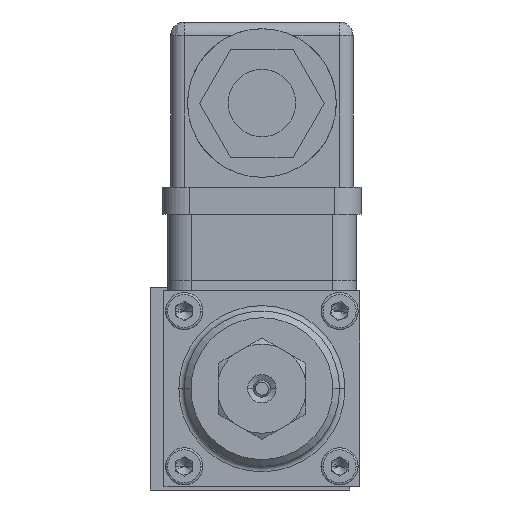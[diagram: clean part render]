
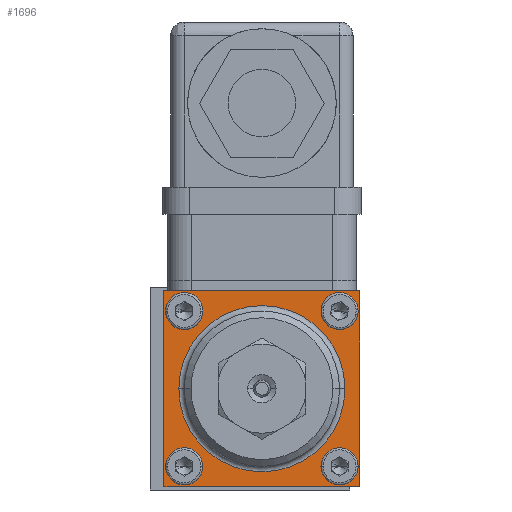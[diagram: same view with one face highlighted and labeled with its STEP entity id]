
A CAD part, left-side view. The second image highlights one B-rep face of the part: STEP entity #1696.
In plain terms, the highlighted planar face has unit normal (-1, 0, 0).
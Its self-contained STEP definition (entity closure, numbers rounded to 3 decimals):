
#281 = ORIENTED_EDGE ( 'NONE', *, *, #485, .F. ) ;
#485 = EDGE_CURVE ( 'NONE', #59286, #60517, #41805, .T. ) ;
#522 = ORIENTED_EDGE ( 'NONE', *, *, #31342, .F. ) ;
#1696 = ADVANCED_FACE ( 'NONE', ( #28129, #39282, #15455, #51898, #2808, #26626 ), #43282, .T. ) ;
#1717 = CARTESIAN_POINT ( 'NONE',  ( -45.7, -13.25, -11.5 ) ) ;
#2378 = EDGE_CURVE ( 'NONE', #11929, #44496, #34126, .T. ) ;
#2550 = AXIS2_PLACEMENT_3D ( 'NONE', #24327, #57642, #29113 ) ;
#2700 = CARTESIAN_POINT ( 'NONE',  ( -45.7, 12.75, -14.5 ) ) ;
#2808 = FACE_OUTER_BOUND ( 'NONE', #35280, .T. ) ;
#2912 = CARTESIAN_POINT ( 'NONE',  ( -45.7, 13.457, 14.5 ) ) ;
#3045 = CARTESIAN_POINT ( 'NONE',  ( -45.7, 9.75, -11.5 ) ) ;
#5516 = CARTESIAN_POINT ( 'NONE',  ( -45.7, -16.25, 14.5 ) ) ;
#5587 = VERTEX_POINT ( 'NONE', #11965 ) ;
#5611 = AXIS2_PLACEMENT_3D ( 'NONE', #22052, #22370, #22789 ) ;
#5831 = DIRECTION ( 'NONE',  ( -1., 0., 0. ) ) ;
#6523 = DIRECTION ( 'NONE',  ( 0., -1., 0. ) ) ;
#6612 = VERTEX_POINT ( 'NONE', #25141 ) ;
#7110 = CARTESIAN_POINT ( 'NONE',  ( -45.7, -15.952, 10.989 ) ) ;
#7529 = CARTESIAN_POINT ( 'NONE',  ( -45.7, 12.75, 14.5 ) ) ;
#7669 = CIRCLE ( 'NONE', #2550, 12.3 ) ;
#7759 = AXIS2_PLACEMENT_3D ( 'NONE', #3045, #36321, #7858 ) ;
#7761 = CARTESIAN_POINT ( 'NONE',  ( -45.7, 9.75, -11.5 ) ) ;
#7858 = DIRECTION ( 'NONE',  ( 0., -1., 0. ) ) ;
#8194 = EDGE_LOOP ( 'NONE', ( #61198, #22834 ) ) ;
#8484 = CARTESIAN_POINT ( 'NONE',  ( -45.7, 12.75, -15.207 ) ) ;
#8796 = VECTOR ( 'NONE', #37668, 1000. ) ;
#9478 = ORIENTED_EDGE ( 'NONE', *, *, #28730, .F. ) ;
#11071 = DIRECTION ( 'NONE',  ( 1., 0., 0. ) ) ;
#11716 = EDGE_CURVE ( 'NONE', #52373, #44496, #33789, .T. ) ;
#11929 = VERTEX_POINT ( 'NONE', #38046 ) ;
#11965 = CARTESIAN_POINT ( 'NONE',  ( -45.7, -14.05, 0. ) ) ;
#12201 = AXIS2_PLACEMENT_3D ( 'NONE', #34350, #5831, #39120 ) ;
#12257 = CIRCLE ( 'NONE', #34297, 2.75 ) ;
#12485 = DIRECTION ( 'NONE',  ( 0., -1., 0. ) ) ;
#12518 = DIRECTION ( 'NONE',  ( 0., -1., 0. ) ) ;
#13007 = AXIS2_PLACEMENT_3D ( 'NONE', #41953, #13379, #46693 ) ;
#13132 = EDGE_CURVE ( 'NONE', #60517, #59286, #49642, .T. ) ;
#13379 = DIRECTION ( 'NONE',  ( -1., 0., 0. ) ) ;
#13546 = AXIS2_PLACEMENT_3D ( 'NONE', #46171, #17674, #50943 ) ;
#13789 = CARTESIAN_POINT ( 'NONE',  ( -45.7, 12.5, 11.5 ) ) ;
#14230 = VECTOR ( 'NONE', #51300, 1000. ) ;
#14513 = EDGE_CURVE ( 'NONE', #5587, #6612, #7669, .T. ) ;
#14542 = ORIENTED_EDGE ( 'NONE', *, *, #24813, .F. ) ;
#14560 = CARTESIAN_POINT ( 'NONE',  ( -45.7, 12.5, -11.5 ) ) ;
#15455 = FACE_BOUND ( 'NONE', #28478, .T. ) ;
#16483 = AXIS2_PLACEMENT_3D ( 'NONE', #39557, #11071, #44386 ) ;
#17674 = DIRECTION ( 'NONE',  ( -1., 0., 0. ) ) ;
#18437 = VERTEX_POINT ( 'NONE', #44379 ) ;
#18441 = ORIENTED_EDGE ( 'NONE', *, *, #2378, .T. ) ;
#18466 = CIRCLE ( 'NONE', #13546, 2.75 ) ;
#18782 = CIRCLE ( 'NONE', #7759, 2.75 ) ;
#19761 = CARTESIAN_POINT ( 'NONE',  ( -45.7, -10.548, 12.011 ) ) ;
#19889 = VERTEX_POINT ( 'NONE', #59310 ) ;
#20061 = EDGE_LOOP ( 'NONE', ( #50008, #522 ) ) ;
#20373 = ORIENTED_EDGE ( 'NONE', *, *, #48418, .F. ) ;
#20998 = CARTESIAN_POINT ( 'NONE',  ( -45.7, -13.25, 11.5 ) ) ;
#21991 = AXIS2_PLACEMENT_3D ( 'NONE', #20998, #54255, #25758 ) ;
#22052 = CARTESIAN_POINT ( 'NONE',  ( -45.7, -13.25, 11.5 ) ) ;
#22370 = DIRECTION ( 'NONE',  ( -1., 0., 0. ) ) ;
#22789 = DIRECTION ( 'NONE',  ( 0., -0.983, -0.186 ) ) ;
#22834 = ORIENTED_EDGE ( 'NONE', *, *, #60417, .T. ) ;
#24327 = CARTESIAN_POINT ( 'NONE',  ( -45.7, -1.75, 0. ) ) ;
#24813 = EDGE_CURVE ( 'NONE', #27719, #52373, #58921, .T. ) ;
#24862 = CIRCLE ( 'NONE', #13007, 2.75 ) ;
#25141 = CARTESIAN_POINT ( 'NONE',  ( -45.7, 10.55, 0. ) ) ;
#25758 = DIRECTION ( 'NONE',  ( 0., -0.983, -0.186 ) ) ;
#26100 = CIRCLE ( 'NONE', #31813, 2.75 ) ;
#26626 = FACE_BOUND ( 'NONE', #8194, .T. ) ;
#27666 = VECTOR ( 'NONE', #28770, 1000. ) ;
#27719 = VERTEX_POINT ( 'NONE', #2700 ) ;
#28129 = FACE_BOUND ( 'NONE', #31680, .T. ) ;
#28478 = EDGE_LOOP ( 'NONE', ( #29812, #281 ) ) ;
#28730 = EDGE_CURVE ( 'NONE', #36007, #18437, #12257, .T. ) ;
#28770 = DIRECTION ( 'NONE',  ( 0., -1., 0. ) ) ;
#29113 = DIRECTION ( 'NONE',  ( 0., -1., 0. ) ) ;
#29179 = VERTEX_POINT ( 'NONE', #14560 ) ;
#29812 = ORIENTED_EDGE ( 'NONE', *, *, #13132, .F. ) ;
#31342 = EDGE_CURVE ( 'NONE', #29179, #61416, #26100, .T. ) ;
#31680 = EDGE_LOOP ( 'NONE', ( #51857, #20373 ) ) ;
#31813 = AXIS2_PLACEMENT_3D ( 'NONE', #7761, #41059, #12518 ) ;
#32323 = VECTOR ( 'NONE', #12485, 1000. ) ;
#32918 = CARTESIAN_POINT ( 'NONE',  ( -45.7, -16.25, -15.207 ) ) ;
#33789 = LINE ( 'NONE', #2912, #32323 ) ;
#34126 = LINE ( 'NONE', #32918, #8796 ) ;
#34297 = AXIS2_PLACEMENT_3D ( 'NONE', #1717, #35028, #6523 ) ;
#34350 = CARTESIAN_POINT ( 'NONE',  ( -45.7, 9.75, 11.5 ) ) ;
#35028 = DIRECTION ( 'NONE',  ( -1., 0., 0. ) ) ;
#35280 = EDGE_LOOP ( 'NONE', ( #38561, #18441, #48246, #14542 ) ) ;
#36007 = VERTEX_POINT ( 'NONE', #49690 ) ;
#36321 = DIRECTION ( 'NONE',  ( -1., 0., 0. ) ) ;
#37668 = DIRECTION ( 'NONE',  ( 0., 0., 1. ) ) ;
#38046 = CARTESIAN_POINT ( 'NONE',  ( -45.7, -16.25, -14.5 ) ) ;
#38561 = ORIENTED_EDGE ( 'NONE', *, *, #46135, .T. ) ;
#39120 = DIRECTION ( 'NONE',  ( 0., -1., 0. ) ) ;
#39282 = FACE_BOUND ( 'NONE', #44322, .T. ) ;
#39495 = DIRECTION ( 'NONE',  ( 0., -1., 0. ) ) ;
#39557 = CARTESIAN_POINT ( 'NONE',  ( -45.7, -1.75, 0. ) ) ;
#40350 = LINE ( 'NONE', #47690, #27666 ) ;
#41059 = DIRECTION ( 'NONE',  ( -1., 0., 0. ) ) ;
#41380 = CARTESIAN_POINT ( 'NONE',  ( -45.7, -1.75, 11.5 ) ) ;
#41805 = CIRCLE ( 'NONE', #5611, 2.75 ) ;
#41953 = CARTESIAN_POINT ( 'NONE',  ( -45.7, 9.75, 11.5 ) ) ;
#42304 = DIRECTION ( 'NONE',  ( -1., 0., 0. ) ) ;
#42366 = CIRCLE ( 'NONE', #12201, 2.75 ) ;
#43282 = PLANE ( 'NONE',  #43998 ) ;
#43998 = AXIS2_PLACEMENT_3D ( 'NONE', #41380, #42304, #39495 ) ;
#44322 = EDGE_LOOP ( 'NONE', ( #9478, #54684 ) ) ;
#44379 = CARTESIAN_POINT ( 'NONE',  ( -45.7, -10.5, -11.5 ) ) ;
#44386 = DIRECTION ( 'NONE',  ( 0., -1., 0. ) ) ;
#44496 = VERTEX_POINT ( 'NONE', #5516 ) ;
#44870 = VERTEX_POINT ( 'NONE', #13789 ) ;
#46135 = EDGE_CURVE ( 'NONE', #27719, #11929, #40350, .T. ) ;
#46171 = CARTESIAN_POINT ( 'NONE',  ( -45.7, -13.25, -11.5 ) ) ;
#46693 = DIRECTION ( 'NONE',  ( 0., -1., 0. ) ) ;
#47690 = CARTESIAN_POINT ( 'NONE',  ( -45.7, 13.457, -14.5 ) ) ;
#48246 = ORIENTED_EDGE ( 'NONE', *, *, #11716, .F. ) ;
#48418 = EDGE_CURVE ( 'NONE', #44870, #19889, #24862, .T. ) ;
#49642 = CIRCLE ( 'NONE', #21991, 2.75 ) ;
#49690 = CARTESIAN_POINT ( 'NONE',  ( -45.7, -16., -11.5 ) ) ;
#50008 = ORIENTED_EDGE ( 'NONE', *, *, #56152, .F. ) ;
#50943 = DIRECTION ( 'NONE',  ( 0., -1., 0. ) ) ;
#51300 = DIRECTION ( 'NONE',  ( 0., 0., 1. ) ) ;
#51857 = ORIENTED_EDGE ( 'NONE', *, *, #57074, .F. ) ;
#51898 = FACE_BOUND ( 'NONE', #20061, .T. ) ;
#52373 = VERTEX_POINT ( 'NONE', #7529 ) ;
#54255 = DIRECTION ( 'NONE',  ( -1., 0., 0. ) ) ;
#54553 = EDGE_CURVE ( 'NONE', #18437, #36007, #18466, .T. ) ;
#54684 = ORIENTED_EDGE ( 'NONE', *, *, #54553, .F. ) ;
#54963 = CARTESIAN_POINT ( 'NONE',  ( -45.7, 7., -11.5 ) ) ;
#56152 = EDGE_CURVE ( 'NONE', #61416, #29179, #18782, .T. ) ;
#56625 = CIRCLE ( 'NONE', #16483, 12.3 ) ;
#57074 = EDGE_CURVE ( 'NONE', #19889, #44870, #42366, .T. ) ;
#57642 = DIRECTION ( 'NONE',  ( 1., 0., 0. ) ) ;
#58921 = LINE ( 'NONE', #8484, #14230 ) ;
#59286 = VERTEX_POINT ( 'NONE', #19761 ) ;
#59310 = CARTESIAN_POINT ( 'NONE',  ( -45.7, 7., 11.5 ) ) ;
#60417 = EDGE_CURVE ( 'NONE', #6612, #5587, #56625, .T. ) ;
#60517 = VERTEX_POINT ( 'NONE', #7110 ) ;
#61198 = ORIENTED_EDGE ( 'NONE', *, *, #14513, .T. ) ;
#61416 = VERTEX_POINT ( 'NONE', #54963 ) ;
